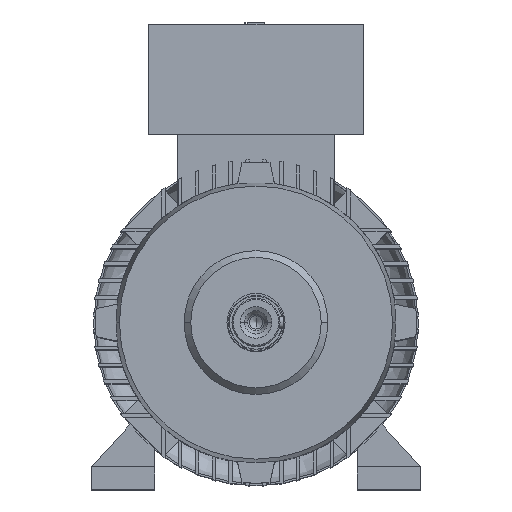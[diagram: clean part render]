
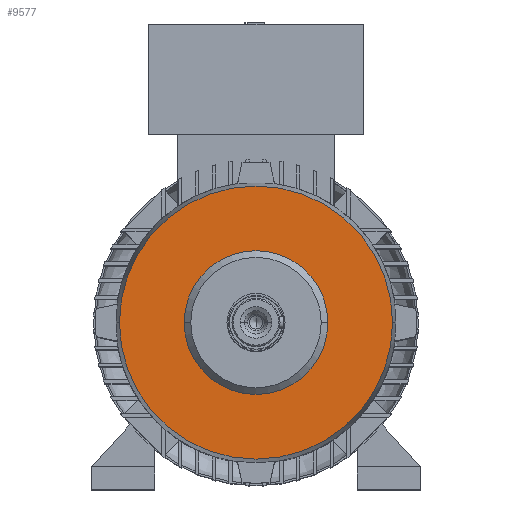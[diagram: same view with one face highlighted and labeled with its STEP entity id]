
A CAD part, top view. The second image highlights one B-rep face of the part: STEP entity #9577.
In plain terms, the highlighted planar face has unit normal (0, 0, 1).
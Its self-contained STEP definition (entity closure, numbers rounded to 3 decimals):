
#460 = CARTESIAN_POINT ( 'NONE',  ( 0., 0., 170.72 ) ) ;
#1402 = EDGE_CURVE ( 'NONE', #15125, #6087, #4123, .T. ) ;
#1803 = CARTESIAN_POINT ( 'NONE',  ( 0., 0., 170.72 ) ) ;
#3233 = DIRECTION ( 'NONE',  ( -1., 0., 0. ) ) ;
#3915 = DIRECTION ( 'NONE',  ( -1., 0., 0. ) ) ;
#4123 = CIRCLE ( 'NONE', #14217, 56.88 ) ;
#5202 = CARTESIAN_POINT ( 'NONE',  ( -108.079, 0., 170.72 ) ) ;
#5336 = DIRECTION ( 'NONE',  ( -1., 0., 0. ) ) ;
#5352 = ORIENTED_EDGE ( 'NONE', *, *, #12599, .F. ) ;
#5604 = CIRCLE ( 'NONE', #19036, 56.88 ) ;
#5729 = DIRECTION ( 'NONE',  ( 0., 0., -1. ) ) ;
#5885 = AXIS2_PLACEMENT_3D ( 'NONE', #460, #5729, #3915 ) ;
#6087 = VERTEX_POINT ( 'NONE', #7864 ) ;
#6435 = DIRECTION ( 'NONE',  ( -1., 0., 0. ) ) ;
#6735 = PLANE ( 'NONE',  #13628 ) ;
#6969 = EDGE_LOOP ( 'NONE', ( #15642, #16268 ) ) ;
#6999 = ORIENTED_EDGE ( 'NONE', *, *, #12252, .F. ) ;
#7090 = DIRECTION ( 'NONE',  ( 0., 0., -1. ) ) ;
#7454 = CIRCLE ( 'NONE', #17624, 108.079 ) ;
#7573 = FACE_OUTER_BOUND ( 'NONE', #9065, .T. ) ;
#7864 = CARTESIAN_POINT ( 'NONE',  ( -56.88, 0., 170.72 ) ) ;
#9065 = EDGE_LOOP ( 'NONE', ( #6999, #5352 ) ) ;
#9577 = ADVANCED_FACE ( 'NONE', ( #7573, #12434 ), #6735, .F. ) ;
#10020 = CARTESIAN_POINT ( 'NONE',  ( 0., 0., 170.72 ) ) ;
#10532 = CARTESIAN_POINT ( 'NONE',  ( 0., 0., 170.72 ) ) ;
#10647 = EDGE_CURVE ( 'NONE', #6087, #15125, #5604, .T. ) ;
#12252 = EDGE_CURVE ( 'NONE', #21442, #18968, #13420, .T. ) ;
#12337 = DIRECTION ( 'NONE',  ( 0., 0., -1. ) ) ;
#12434 = FACE_BOUND ( 'NONE', #6969, .T. ) ;
#12599 = EDGE_CURVE ( 'NONE', #18968, #21442, #7454, .T. ) ;
#13420 = CIRCLE ( 'NONE', #5885, 108.079 ) ;
#13576 = DIRECTION ( 'NONE',  ( 0., 0., -1. ) ) ;
#13628 = AXIS2_PLACEMENT_3D ( 'NONE', #16802, #18822, #6435 ) ;
#13671 = CARTESIAN_POINT ( 'NONE',  ( 56.88, 0., 170.72 ) ) ;
#14217 = AXIS2_PLACEMENT_3D ( 'NONE', #10020, #13576, #3233 ) ;
#14390 = CARTESIAN_POINT ( 'NONE',  ( 108.079, 0., 170.72 ) ) ;
#15125 = VERTEX_POINT ( 'NONE', #13671 ) ;
#15642 = ORIENTED_EDGE ( 'NONE', *, *, #10647, .T. ) ;
#15886 = DIRECTION ( 'NONE',  ( -1., 0., 0. ) ) ;
#16268 = ORIENTED_EDGE ( 'NONE', *, *, #1402, .T. ) ;
#16802 = CARTESIAN_POINT ( 'NONE',  ( 0., 108.079, 170.72 ) ) ;
#17624 = AXIS2_PLACEMENT_3D ( 'NONE', #1803, #7090, #5336 ) ;
#18822 = DIRECTION ( 'NONE',  ( 0., 0., -1. ) ) ;
#18968 = VERTEX_POINT ( 'NONE', #14390 ) ;
#19036 = AXIS2_PLACEMENT_3D ( 'NONE', #10532, #12337, #15886 ) ;
#21442 = VERTEX_POINT ( 'NONE', #5202 ) ;
